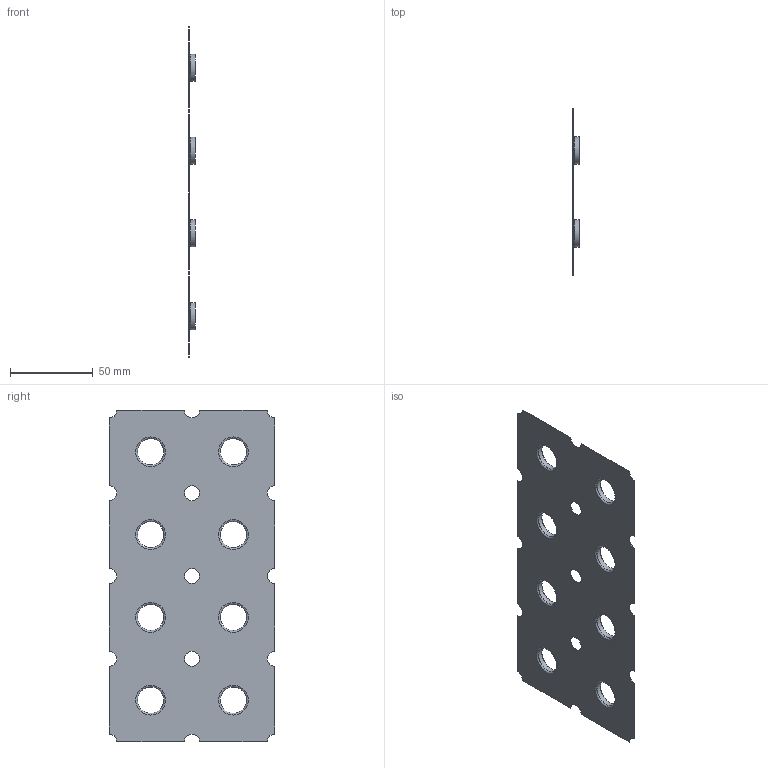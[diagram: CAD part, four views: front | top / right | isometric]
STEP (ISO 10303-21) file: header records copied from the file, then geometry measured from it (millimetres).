
FILE_DESCRIPTION( ( 'Unknown' ), '1' );
FILE_NAME( '//SERVER2K3/Dati/Documenti/TEC/SolidEdge/solidedge/Template/Pacchi Alettati/Geometrie formato STEP/Pacco Standard 50x50 ø15,88 con resistenze.stp', 'Unknown', ( 'Unknown' ), ( 'Unknown' ), 'PSStep 15.0.49', 'Unknown', ' ' );
FILE_SCHEMA( ( 'AUTOMOTIVE_DESIGN { 1 0 10303 214 1 1 1 1 }' ) );
Length unit declared in the file: millimetre
Products named in the file (1): 1
Bounding box: 4 x 100 x 200 mm (x, y, z)
Volume: 4817.3 mm3; surface area: 38817.9 mm2
Topology: 1 solids, 1 shells, 69 faces, 180 edges, 121 vertices
Faces by surface type: cylinder 31, plane 22, torus 16
Full cylindrical faces by diameter (mm): 9 x3, 15.88 x8, 16.38 x8
Entity records: 2422 total; most frequent: DIRECTION 344, CARTESIAN_POINT 298, ORIENTED_EDGE 252, AXIS2_PLACEMENT_3D 148, EDGE_LOOP 134, EDGE_CURVE 126, FACE_OUTER_BOUND 104, VERTEX_POINT 102
